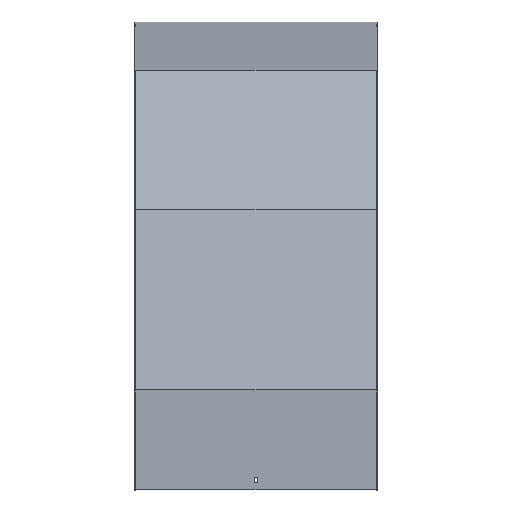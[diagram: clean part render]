
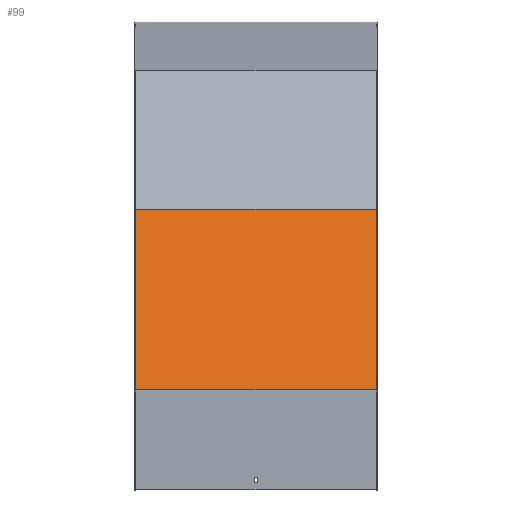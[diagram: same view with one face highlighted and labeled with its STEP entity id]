
A CAD part, top view. The second image highlights one B-rep face of the part: STEP entity #99.
In plain terms, the highlighted planar face has unit normal (0, 0.259, 0.966).
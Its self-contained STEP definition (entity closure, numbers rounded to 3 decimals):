
#13 = EDGE_CURVE ( 'NONE', #646, #370, #103, .T. ) ;
#31 = VERTEX_POINT ( 'NONE', #639 ) ;
#92 = ORIENTED_EDGE ( 'NONE', *, *, #13, .F. ) ;
#99 = ADVANCED_FACE ( 'NONE', ( #548 ), #278, .F. ) ;
#103 = LINE ( 'NONE', #197, #839 ) ;
#138 = DIRECTION ( 'NONE',  ( 0., -0.966, 0.259 ) ) ;
#165 = VERTEX_POINT ( 'NONE', #1093 ) ;
#184 = LINE ( 'NONE', #709, #594 ) ;
#197 = CARTESIAN_POINT ( 'NONE',  ( 201.5, -593.325, 779.958 ) ) ;
#278 = PLANE ( 'NONE',  #417 ) ;
#293 = DIRECTION ( 'NONE',  ( 0., 0.966, -0.259 ) ) ;
#370 = VERTEX_POINT ( 'NONE', #976 ) ;
#371 = CARTESIAN_POINT ( 'NONE',  ( 201.5, -292.929, 699.467 ) ) ;
#397 = EDGE_CURVE ( 'NONE', #31, #165, #892, .T. ) ;
#417 = AXIS2_PLACEMENT_3D ( 'NONE', #623, #893, #293 ) ;
#435 = ORIENTED_EDGE ( 'NONE', *, *, #397, .T. ) ;
#548 = FACE_OUTER_BOUND ( 'NONE', #769, .T. ) ;
#555 = DIRECTION ( 'NONE',  ( -1., 0., 0. ) ) ;
#594 = VECTOR ( 'NONE', #628, 1000. ) ;
#623 = CARTESIAN_POINT ( 'NONE',  ( 201.5, -298.106, 700.854 ) ) ;
#628 = DIRECTION ( 'NONE',  ( 0., -0.966, 0.259 ) ) ;
#639 = CARTESIAN_POINT ( 'NONE',  ( 201.5, -292.929, 699.467 ) ) ;
#646 = VERTEX_POINT ( 'NONE', #1014 ) ;
#674 = VECTOR ( 'NONE', #804, 1000. ) ;
#709 = CARTESIAN_POINT ( 'NONE',  ( 201.5, -298.106, 700.854 ) ) ;
#734 = ORIENTED_EDGE ( 'NONE', *, *, #810, .F. ) ;
#769 = EDGE_LOOP ( 'NONE', ( #997, #92, #734, #435 ) ) ;
#804 = DIRECTION ( 'NONE',  ( -1., 0., 0. ) ) ;
#810 = EDGE_CURVE ( 'NONE', #31, #646, #184, .T. ) ;
#839 = VECTOR ( 'NONE', #555, 1000. ) ;
#892 = LINE ( 'NONE', #371, #674 ) ;
#893 = DIRECTION ( 'NONE',  ( 0., -0.259, -0.966 ) ) ;
#920 = CARTESIAN_POINT ( 'NONE',  ( -201.5, -298.106, 700.854 ) ) ;
#976 = CARTESIAN_POINT ( 'NONE',  ( -201.5, -593.325, 779.958 ) ) ;
#988 = LINE ( 'NONE', #920, #1037 ) ;
#989 = EDGE_CURVE ( 'NONE', #165, #370, #988, .T. ) ;
#997 = ORIENTED_EDGE ( 'NONE', *, *, #989, .T. ) ;
#1014 = CARTESIAN_POINT ( 'NONE',  ( 201.5, -593.325, 779.958 ) ) ;
#1037 = VECTOR ( 'NONE', #138, 1000. ) ;
#1093 = CARTESIAN_POINT ( 'NONE',  ( -201.5, -292.929, 699.467 ) ) ;
